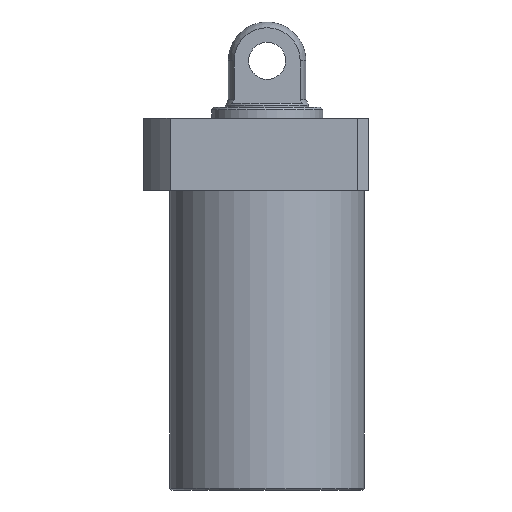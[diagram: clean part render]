
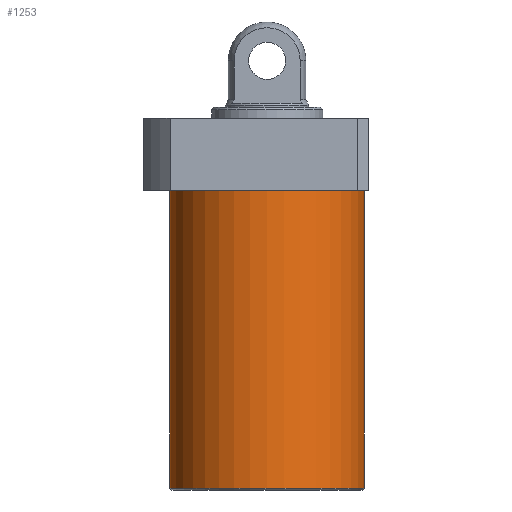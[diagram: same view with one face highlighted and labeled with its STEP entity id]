
A CAD part, front view. The second image highlights one B-rep face of the part: STEP entity #1253.
In plain terms, the highlighted cylindrical face has radius 52.5 mm (diameter 105 mm), a partial arc.
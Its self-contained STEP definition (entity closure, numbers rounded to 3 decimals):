
#14 = LINE ( 'NONE', #876, #485 ) ;
#94 = AXIS2_PLACEMENT_3D ( 'NONE', #1770, #1319, #1334 ) ;
#168 = CARTESIAN_POINT ( 'NONE',  ( 52.5, 0., -19.5 ) ) ;
#214 = CIRCLE ( 'NONE', #94, 52.5 ) ;
#233 = EDGE_CURVE ( 'NONE', #771, #1678, #1789, .T. ) ;
#252 = EDGE_CURVE ( 'NONE', #608, #558, #14, .T. ) ;
#339 = FACE_OUTER_BOUND ( 'NONE', #970, .T. ) ;
#386 = CARTESIAN_POINT ( 'NONE',  ( 0., 0., -180.5 ) ) ;
#445 = AXIS2_PLACEMENT_3D ( 'NONE', #386, #813, #1790 ) ;
#485 = VECTOR ( 'NONE', #595, 1000. ) ;
#524 = CYLINDRICAL_SURFACE ( 'NONE', #872, 52.5 ) ;
#532 = ORIENTED_EDGE ( 'NONE', *, *, #1486, .T. ) ;
#558 = VERTEX_POINT ( 'NONE', #168 ) ;
#595 = DIRECTION ( 'NONE',  ( 0., 0., 1. ) ) ;
#608 = VERTEX_POINT ( 'NONE', #1257 ) ;
#653 = ORIENTED_EDGE ( 'NONE', *, *, #252, .T. ) ;
#748 = CARTESIAN_POINT ( 'NONE',  ( -52.5, 0., -181.5 ) ) ;
#751 = DIRECTION ( 'NONE',  ( 1., 0., 0. ) ) ;
#771 = VERTEX_POINT ( 'NONE', #1030 ) ;
#813 = DIRECTION ( 'NONE',  ( 0., 0., 1. ) ) ;
#872 = AXIS2_PLACEMENT_3D ( 'NONE', #1175, #1154, #751 ) ;
#876 = CARTESIAN_POINT ( 'NONE',  ( 52.5, 0., -181.5 ) ) ;
#970 = EDGE_LOOP ( 'NONE', ( #1301, #532, #653, #1273 ) ) ;
#1030 = CARTESIAN_POINT ( 'NONE',  ( -52.5, 0., -180.5 ) ) ;
#1154 = DIRECTION ( 'NONE',  ( 0., 0., 1. ) ) ;
#1175 = CARTESIAN_POINT ( 'NONE',  ( 0., 0., -181.5 ) ) ;
#1253 = ADVANCED_FACE ( 'NONE', ( #339 ), #524, .T. ) ;
#1257 = CARTESIAN_POINT ( 'NONE',  ( 52.5, 0., -180.5 ) ) ;
#1273 = ORIENTED_EDGE ( 'NONE', *, *, #1342, .T. ) ;
#1301 = ORIENTED_EDGE ( 'NONE', *, *, #233, .F. ) ;
#1319 = DIRECTION ( 'NONE',  ( 0., 0., -1. ) ) ;
#1334 = DIRECTION ( 'NONE',  ( 1., 0., 0. ) ) ;
#1342 = EDGE_CURVE ( 'NONE', #558, #1678, #214, .T. ) ;
#1473 = CIRCLE ( 'NONE', #445, 52.5 ) ;
#1486 = EDGE_CURVE ( 'NONE', #771, #608, #1473, .T. ) ;
#1508 = VECTOR ( 'NONE', #1729, 1000. ) ;
#1678 = VERTEX_POINT ( 'NONE', #1817 ) ;
#1729 = DIRECTION ( 'NONE',  ( 0., 0., 1. ) ) ;
#1770 = CARTESIAN_POINT ( 'NONE',  ( 0., 0., -19.5 ) ) ;
#1789 = LINE ( 'NONE', #748, #1508 ) ;
#1790 = DIRECTION ( 'NONE',  ( -1., 0., 0. ) ) ;
#1817 = CARTESIAN_POINT ( 'NONE',  ( -52.5, 0., -19.5 ) ) ;
